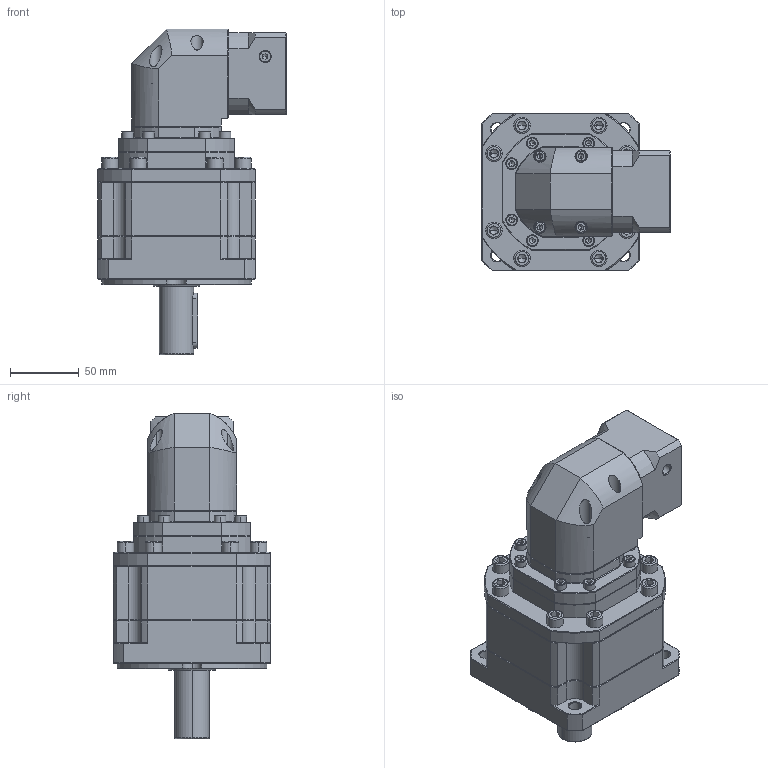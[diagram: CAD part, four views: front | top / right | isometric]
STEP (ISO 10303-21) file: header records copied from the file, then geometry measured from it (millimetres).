
FILE_DESCRIPTION (( 'STEP AP214' ), '1' );
FILE_NAME ('ZBR115A-D25-L3-P2-8-38.1-47.14x47.14-M4.step', '2023-08-26T14:06:22', ( '' ), ( '' ), 'SwSTEP 2.0', 'SolidWorks 2016', '' );
FILE_SCHEMA (( 'AUTOMOTIVE_DESIGN' ));
Length unit declared in the file: millimetre
Products named in the file (1): ZBR115A-D25-L3-P2-8-38.1-47.14x47.14-M4
Bounding box: 137.7 x 115 x 237.5 mm (x, y, z)
Volume: 1556363.4 mm3; surface area: 146200 mm2
Topology: 6 solids, 6 shells, 2631 faces, 6930 edges, 4420 vertices
Faces by surface type: plane 1300, cylinder 479, bspline 443, cone 389, torus 20
Entity records: 134394 total; most frequent: CARTESIAN_POINT 43953, ORIENTED_EDGE 13736, DIRECTION 11196, EDGE_CURVE 6868, VERTEX_POINT 4420, VECTOR 4346, LINE 4346, AXIS2_PLACEMENT_3D 3425
